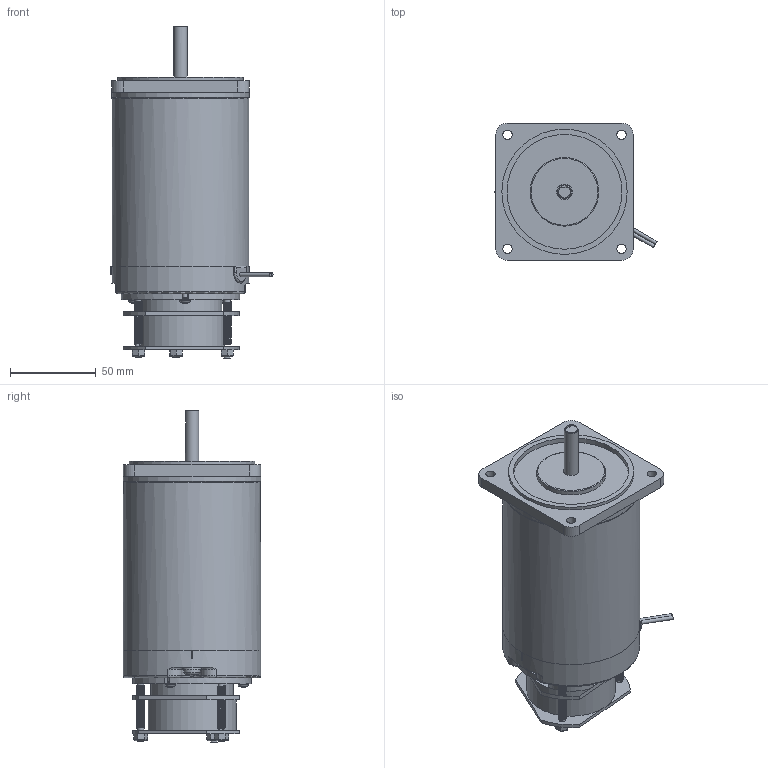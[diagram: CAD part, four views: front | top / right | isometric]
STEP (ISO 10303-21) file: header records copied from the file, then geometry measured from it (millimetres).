
FILE_DESCRIPTION((''),'2;1');
FILE_NAME('D:\yang\Yang cw\SPG 업무\2. DC MOTOR\7. DC MOTOR 브로슈어\ELECTRIC-BRAKE ASSEMBLY DC MOTOR\3D\STEP\S8D40-24A(OB85) KEY.stp','2015-03-10T13:47:50',('ycw1227'),(''),'Autodesk Inventor 2013','Autodesk Inventor 2013','');
FILE_SCHEMA(('AUTOMOTIVE_DESIGN { 1 0 10303 214 1 1 1 1 }'));
Length unit declared in the file: millimetre
Products named in the file (1): 부품17
Bounding box: 94.43 x 80 x 193.5 mm (x, y, z)
Volume: 698493.4 mm3; surface area: 66130.4 mm2
Topology: 1 solids, 6 shells, 447 faces, 1154 edges, 718 vertices
Faces by surface type: plane 178, cylinder 148, cone 62, torus 42, bspline 12, sphere 5
Full cylindrical faces by diameter (mm): 2.2 x2, 2.459 x3, 2.693 x3, 3 x3, 3.8 x21, 4.567 x2, 5 x2, 5.4 x2, 5.5 x4, 5.6 x2, 8 x3, 9 x1, 10 x1, 11 x2, 26 x2, 40 x1, 48 x1, 51.5 x1, 67 x1, 73 x1, 80 x3
Entity records: 30891 total; most frequent: CARTESIAN_POINT 21088, DIRECTION 1934, ORIENTED_EDGE 1874, EDGE_CURVE 937, AXIS2_PLACEMENT_3D 786, VERTEX_POINT 617, EDGE_LOOP 547, FACE_OUTER_BOUND 422
